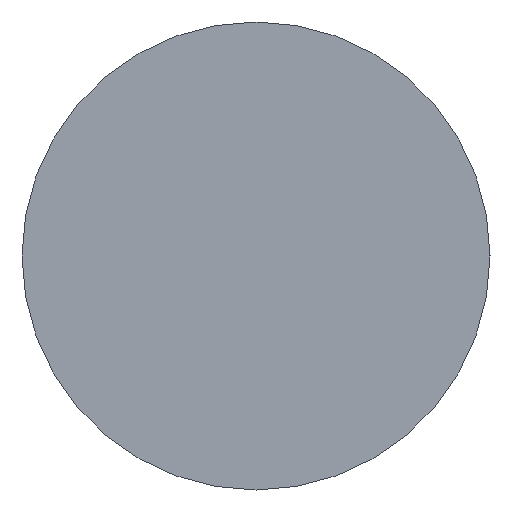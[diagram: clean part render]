
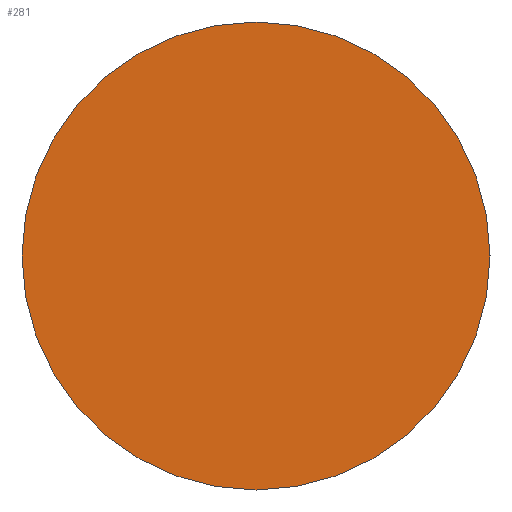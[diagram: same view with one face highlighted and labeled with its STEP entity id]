
A CAD part, left-side view. The second image highlights one B-rep face of the part: STEP entity #281.
In plain terms, the highlighted planar face has unit normal (-1, 0, 0).
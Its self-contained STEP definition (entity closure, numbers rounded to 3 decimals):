
#231=AXIS2_PLACEMENT_3D('Circle Axis2P3D',#229,#230,$) ;
#257=AXIS2_PLACEMENT_3D('Circle Axis2P3D',#255,#256,$) ;
#275=AXIS2_PLACEMENT_3D('Plane Axis2P3D',#272,#273,#274) ;
#224=CARTESIAN_POINT('Vertex',(0.,21.,0.)) ;
#229=CARTESIAN_POINT('Axis2P3D Location',(0.,0.,0.)) ;
#233=CARTESIAN_POINT('Vertex',(0.,-21.,0.)) ;
#255=CARTESIAN_POINT('Axis2P3D Location',(0.,0.,0.)) ;
#272=CARTESIAN_POINT('Axis2P3D Location',(0.,0.,0.)) ;
#230=DIRECTION('Axis2P3D Direction',(1.,0.,0.)) ;
#256=DIRECTION('Axis2P3D Direction',(1.,0.,0.)) ;
#273=DIRECTION('Axis2P3D Direction',(1.,0.,0.)) ;
#274=DIRECTION('Axis2P3D XDirection',(0.,1.,0.)) ;
#278=ORIENTED_EDGE('',*,*,#259,.F.) ;
#279=ORIENTED_EDGE('',*,*,#235,.F.) ;
#281=ADVANCED_FACE('\X2\96F64EF651E04F554F53\X0\',(#280),#276,.F.) ;
#232=CIRCLE('generated circle',#231,21.) ;
#258=CIRCLE('generated circle',#257,21.) ;
#235=EDGE_CURVE('',#225,#234,#232,.T.) ;
#259=EDGE_CURVE('',#234,#225,#258,.T.) ;
#277=EDGE_LOOP('',(#278,#279)) ;
#280=FACE_OUTER_BOUND('',#277,.T.) ;
#276=PLANE('Plane',#275) ;
#225=VERTEX_POINT('',#224) ;
#234=VERTEX_POINT('',#233) ;
